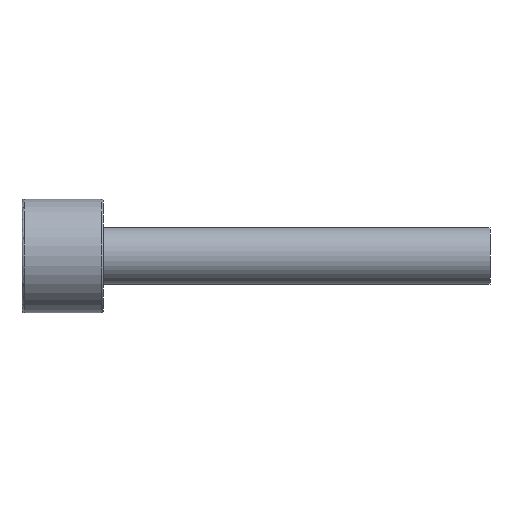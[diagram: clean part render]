
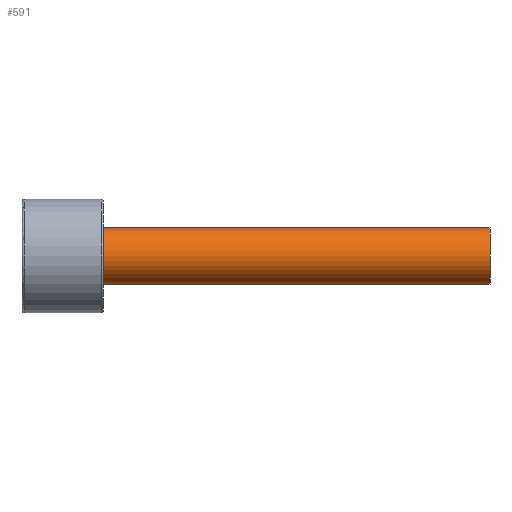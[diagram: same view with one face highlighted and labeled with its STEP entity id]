
A CAD part, front view. The second image highlights one B-rep face of the part: STEP entity #591.
In plain terms, the highlighted cylindrical face has radius 7 mm (diameter 14 mm), a partial arc.
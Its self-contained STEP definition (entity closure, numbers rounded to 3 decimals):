
#425=CARTESIAN_POINT('Vertex',(115.,0.,7.)) ;
#428=CARTESIAN_POINT('Axis2P3D Location',(115.,0.,0.)) ;
#432=CARTESIAN_POINT('Vertex',(115.,-7.,0.)) ;
#435=CARTESIAN_POINT('Axis2P3D Location',(115.,0.,0.)) ;
#439=CARTESIAN_POINT('Vertex',(115.,0.,-7.)) ;
#531=CARTESIAN_POINT('Line Origine',(115.,0.,7.)) ;
#535=CARTESIAN_POINT('Vertex',(20.,0.,7.)) ;
#538=CARTESIAN_POINT('Line Origine',(115.,0.,-7.)) ;
#542=CARTESIAN_POINT('Vertex',(20.,0.,-7.)) ;
#566=CARTESIAN_POINT('Axis2P3D Location',(115.,0.,0.)) ;
#571=CARTESIAN_POINT('Axis2P3D Location',(20.,0.,0.)) ;
#575=CARTESIAN_POINT('Vertex',(20.,-7.,0.)) ;
#578=CARTESIAN_POINT('Axis2P3D Location',(20.,0.,0.)) ;
#429=DIRECTION('Axis2P3D Direction',(1.,0.,-0.)) ;
#436=DIRECTION('Axis2P3D Direction',(1.,0.,-0.)) ;
#532=DIRECTION('Vector Direction',(-1.,0.,0.)) ;
#539=DIRECTION('Vector Direction',(-1.,0.,0.)) ;
#567=DIRECTION('Axis2P3D Direction',(-1.,-0.,-0.)) ;
#568=DIRECTION('Axis2P3D XDirection',(0.,0.,-1.)) ;
#572=DIRECTION('Axis2P3D Direction',(-1.,-0.,-0.)) ;
#579=DIRECTION('Axis2P3D Direction',(-1.,-0.,-0.)) ;
#430=AXIS2_PLACEMENT_3D('Circle Axis2P3D',#428,#429,$) ;
#437=AXIS2_PLACEMENT_3D('Circle Axis2P3D',#435,#436,$) ;
#569=AXIS2_PLACEMENT_3D('Cylinder Axis2P3D',#566,#567,#568) ;
#573=AXIS2_PLACEMENT_3D('Circle Axis2P3D',#571,#572,$) ;
#580=AXIS2_PLACEMENT_3D('Circle Axis2P3D',#578,#579,$) ;
#584=ORIENTED_EDGE('',*,*,#544,.T.) ;
#585=ORIENTED_EDGE('',*,*,#441,.F.) ;
#586=ORIENTED_EDGE('',*,*,#434,.F.) ;
#587=ORIENTED_EDGE('',*,*,#537,.T.) ;
#588=ORIENTED_EDGE('',*,*,#577,.T.) ;
#589=ORIENTED_EDGE('',*,*,#582,.T.) ;
#533=VECTOR('Line Direction',#532,1.) ;
#540=VECTOR('Line Direction',#539,1.) ;
#591=ADVANCED_FACE('367-14X115',(#590),#570,.T.) ;
#431=CIRCLE('generated circle',#430,7.) ;
#438=CIRCLE('generated circle',#437,7.) ;
#574=CIRCLE('generated circle',#573,7.) ;
#581=CIRCLE('generated circle',#580,7.) ;
#570=CYLINDRICAL_SURFACE('generated cylinder',#569,7.) ;
#434=EDGE_CURVE('',#426,#433,#431,.T.) ;
#441=EDGE_CURVE('',#433,#440,#438,.T.) ;
#537=EDGE_CURVE('',#426,#536,#534,.T.) ;
#544=EDGE_CURVE('',#543,#440,#541,.F.) ;
#577=EDGE_CURVE('',#536,#576,#574,.F.) ;
#582=EDGE_CURVE('',#576,#543,#581,.F.) ;
#583=EDGE_LOOP('',(#584,#585,#586,#587,#588,#589)) ;
#590=FACE_OUTER_BOUND('',#583,.T.) ;
#534=LINE('Line',#531,#533) ;
#541=LINE('Line',#538,#540) ;
#426=VERTEX_POINT('',#425) ;
#433=VERTEX_POINT('',#432) ;
#440=VERTEX_POINT('',#439) ;
#536=VERTEX_POINT('',#535) ;
#543=VERTEX_POINT('',#542) ;
#576=VERTEX_POINT('',#575) ;
